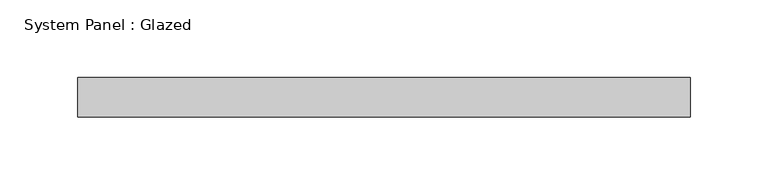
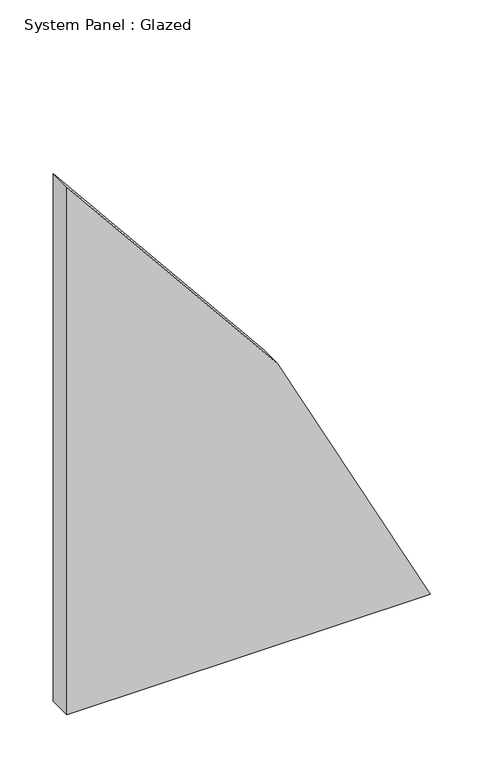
"""IFC4 building model written with IfcOpenShell, lengths in millimetres: plate geometry, System Panel : Glazed."""

import ifcopenshell
import ifcopenshell.guid

model = None  # the IFC model being written
_history = None  # IfcOwnerHistory: only IFC2X3 demands one
_inside = {}  # id of a spatial element -> (the spatial element, [elements in it])
_under = {}  # id of a project, library or spatial element -> (it, [spatial elements below it])
_declared = {}  # id of a project -> (the project, [libraries it declares])
_typed = {}  # id of a type object -> (the type object, [elements of that type])
_made_of = {}  # id of a material, layer set ... -> (it, [elements and type objects made of it])


def new_model(schema):
    """Start an empty IFC model of exactly this schema.

    Asked for "IFC4X3", IfcOpenShell would pick the latest addendum, in which some entities
    have other attributes; the version numbers below select the first issue.
    IFC2X3 requires an IfcOwnerHistory on every rooted entity: one is made here for all.
    """
    global model, _history
    if schema == "IFC4X3":
        model = ifcopenshell.file(schema_version=(4, 3, 0, 0))
    else:
        model = ifcopenshell.file(schema=schema)
    _inside.clear()
    _under.clear()
    _declared.clear()
    _typed.clear()
    _made_of.clear()
    _history = None
    if model.schema == "IFC2X3":
        org = make("IfcOrganization", Name="unknown")
        user = make(
            "IfcPersonAndOrganization",
            ThePerson=make("IfcPerson", FamilyName="unknown"),
            TheOrganization=org,
        )
        app = make(
            "IfcApplication",
            ApplicationDeveloper=org,
            Version="unknown",
            ApplicationFullName="unknown",
            ApplicationIdentifier="unknown",
        )
        _history = make(
            "IfcOwnerHistory",
            OwningUser=user,
            OwningApplication=app,
            ChangeAction="ADDED",
            CreationDate=0,
        )
    return model


def make(cls, **values):
    """One entity of the class cls with the attributes given. An attribute that is None is left unset."""
    return model.create_entity(
        cls, **{name: value for name, value in values.items() if value is not None}
    )


def rooted(cls, **values):
    """An entity with a GlobalId (a new one), such as an element, a storey or a relation."""
    return make(cls, GlobalId=ifcopenshell.guid.new(), OwnerHistory=_history, **values)


def si_unit(unit_type, name, prefix=None):
    """IfcSIUnit, for example si_unit("LENGTHUNIT", "METRE", prefix="MILLI")."""
    return make("IfcSIUnit", UnitType=unit_type, Prefix=prefix, Name=name)


def assignment(units):
    """IfcUnitAssignment: the units of a project."""
    return None if units is None else make("IfcUnitAssignment", Units=units)


def point(xyz):
    """IfcCartesianPoint."""
    return None if xyz is None else make("IfcCartesianPoint", Coordinates=xyz)


def direction(xyz):
    """IfcDirection."""
    return None if xyz is None else make("IfcDirection", DirectionRatios=xyz)


def frame(location, z_axis=None, x_axis=None):
    """IfcAxis2Placement3D, a coordinate frame: its origin and axes. An axis left out is left unset."""
    return make(
        "IfcAxis2Placement3D",
        Location=point(location),
        Axis=direction(z_axis),
        RefDirection=direction(x_axis),
    )


def frame_2d(location, x_axis=None):
    """IfcAxis2Placement2D, a coordinate frame in the plane: its origin and x axis."""
    return make(
        "IfcAxis2Placement2D", Location=point(location), RefDirection=direction(x_axis)
    )


def origin():
    """The frame at (0, 0, 0) with its axes left unset."""
    return frame((0.0, 0.0, 0.0))


def place(relative_to, where):
    """IfcLocalPlacement: puts the frame where relative to a parent placement (None: the world)."""
    return make(
        "IfcLocalPlacement", PlacementRelTo=relative_to, RelativePlacement=where
    )


def context(
    kind, dimensions, precision=None, world=None, true_north=None, identifier=None
):
    """IfcGeometricRepresentationContext, for example the 3D "Model" context."""
    return make(
        "IfcGeometricRepresentationContext",
        ContextIdentifier=identifier,
        ContextType=kind,
        CoordinateSpaceDimension=dimensions,
        Precision=precision,
        WorldCoordinateSystem=world,
        TrueNorth=true_north,
    )


def project(units=None, contexts=None):
    """IfcProject with its units and contexts."""
    return rooted(
        "IfcProject",
        Name="project",
        RepresentationContexts=contexts,
        UnitsInContext=assignment(units),
    )


def spatial(cls, under=None, at=None, **own):
    """A site, building, storey or space (cls), placed at a placement, below another one or the project."""
    s = rooted(cls, ObjectPlacement=at, **own)
    if under is not None:
        _under.setdefault(under.id(), (under, []))[1].append(s)
    return s


def polyline(points):
    """IfcPolyline through the points."""
    return make("IfcPolyline", Points=[point(p) for p in points])


def circle_curve(where, radius):
    """IfcCircle in the frame where."""
    return make("IfcCircle", Position=where, Radius=radius)


def trimmed(basis, trim1, trim2, sense, master):
    """IfcTrimmedCurve: the piece of a basis curve between two trims."""
    return make(
        "IfcTrimmedCurve",
        BasisCurve=basis,
        Trim1=trim1,
        Trim2=trim2,
        SenseAgreement=sense,
        MasterRepresentation=master,
    )


def segment(curve, same_sense, transition):
    """IfcCompositeCurveSegment."""
    return make(
        "IfcCompositeCurveSegment",
        Transition=transition,
        SameSense=same_sense,
        ParentCurve=curve,
    )


def composite_curve(segments, self_intersect=None):
    """IfcCompositeCurve: segments joined end to end."""
    return make("IfcCompositeCurve", Segments=segments, SelfIntersect=self_intersect)


def outline(outer, holes=None, kind="AREA"):
    """IfcArbitraryClosedProfileDef: a profile drawn as a closed curve; with holes, ...WithVoids."""
    if holes is None:
        return make("IfcArbitraryClosedProfileDef", ProfileType=kind, OuterCurve=outer)
    return make(
        "IfcArbitraryProfileDefWithVoids",
        ProfileType=kind,
        OuterCurve=outer,
        InnerCurves=holes,
    )


def extrude(swept, where, along, depth):
    """IfcExtrudedAreaSolid: the profile swept, set in the frame where, extruded along a direction by depth."""
    return make(
        "IfcExtrudedAreaSolid",
        SweptArea=swept,
        Position=where,
        ExtrudedDirection=direction(along),
        Depth=depth,
    )


def shape(context_of_items, identifier, shape_type, items):
    """IfcShapeRepresentation: the items that make up one representation, for example the "Body"."""
    return make(
        "IfcShapeRepresentation",
        ContextOfItems=context_of_items,
        RepresentationIdentifier=identifier,
        RepresentationType=shape_type,
        Items=items,
    )


def source(mapping_origin, context_of_items, identifier, shape_type, items):
    """IfcRepresentationMap: a shape defined once, which mapped items show again and again."""
    return make(
        "IfcRepresentationMap",
        MappingOrigin=mapping_origin,
        MappedRepresentation=shape(context_of_items, identifier, shape_type, items),
    )


def transform(
    local_origin,
    x_axis=None,
    y_axis=None,
    z_axis=None,
    scale=None,
    scale2=None,
    scale3=None,
    uniform=True,
):
    """IfcCartesianTransformationOperator3D, or its non-uniform kind. x_axis, y_axis, z_axis: its Axis1, 2, 3."""
    if uniform:
        return make(
            "IfcCartesianTransformationOperator3D",
            Axis1=direction(x_axis),
            Axis2=direction(y_axis),
            LocalOrigin=point(local_origin),
            Scale=scale,
            Axis3=direction(z_axis),
        )
    return make(
        "IfcCartesianTransformationOperator3DnonUniform",
        Axis1=direction(x_axis),
        Axis2=direction(y_axis),
        LocalOrigin=point(local_origin),
        Scale=scale,
        Axis3=direction(z_axis),
        Scale2=scale2,
        Scale3=scale3,
    )


def mapped(mapping_source, mapping_target):
    """IfcMappedItem: shows the shape of a source again, moved by a transform."""
    return make(
        "IfcMappedItem", MappingSource=mapping_source, MappingTarget=mapping_target
    )


def made_of(thing, what):
    """Note that an element or type object is made of a material, layer set ...; save() writes the relation."""
    if what is not None:
        _made_of.setdefault(what.id(), (what, []))[1].append(thing)
    return thing


def element(
    cls,
    number,
    at=None,
    inside=None,
    cuts=None,
    type_object=None,
    material=None,
    context=None,
    identifier="Body",
    shape_type=None,
    held_by="IfcProductDefinitionShape",
    body=None,
    shapes=None,
    **own,
):
    """One element of the class cls, such as IfcWall. Its Tag is "e" and its number.

    at: its placement. inside: the storey or other place that contains it. cuts: it is an
    opening in that element (IfcRelVoidsElement). A single representation is given by context,
    identifier, shape_type and body (its items); several are given by shapes. held_by: the class
    of the entity that holds the representations. save() writes the other relations.
    """
    e = rooted(cls, Tag="e%d" % number, ObjectPlacement=at, **own)
    if body is not None:
        shapes = [shape(context, identifier, shape_type, body)]
    if shapes is not None:
        e.Representation = make(held_by, Representations=shapes)
    if inside is not None:
        _inside.setdefault(inside.id(), (inside, []))[1].append(e)
    if cuts is not None:
        rooted(
            "IfcRelVoidsElement", RelatingBuildingElement=cuts, RelatedOpeningElement=e
        )
    if type_object is not None:
        _typed.setdefault(type_object.id(), (type_object, []))[1].append(e)
    return made_of(e, material)


def aggregate(whole, parts):
    """IfcRelAggregates: a whole, such as a stair, and the parts it consists of."""
    return rooted("IfcRelAggregates", RelatingObject=whole, RelatedObjects=parts)


def save(model, path):
    """Write the relations noted so far, then the file.

    IfcRelAggregates (storeys below a building ...), IfcRelContainedInSpatialStructure (elements
    in a storey), IfcRelDefinesByType, IfcRelAssociatesMaterial and IfcRelDeclares: one each for
    every whole, place, type object, material and project.
    """
    for whole, parts in _under.values():
        aggregate(whole, parts)
    for where, things in _inside.values():
        rooted(
            "IfcRelContainedInSpatialStructure",
            RelatedElements=things,
            RelatingStructure=where,
        )
    for kind, things in _typed.values():
        rooted("IfcRelDefinesByType", RelatedObjects=things, RelatingType=kind)
    for what, things in _made_of.values():
        rooted("IfcRelAssociatesMaterial", RelatedObjects=things, RelatingMaterial=what)
    for by, libraries in _declared.values():
        rooted("IfcRelDeclares", RelatingContext=by, RelatedDefinitions=libraries)
    model.write(path)


def system_panel_glazed_0195c96e(model_context):
    return source(origin(), model_context, "Body", "SweptSolid", [
        extrude(outline(composite_curve([segment(polyline([(0.0, -196.8622586), (0.0, 196.8622586)]), True, "CONTINUOUS"), segment(trimmed(circle_curve(frame_2d((-641.35, -1447.8122586)), 1765.3), [point((0.0, 196.8622586))], [point((604.2053731, -196.8622586))], False, "CARTESIAN"), True, "CONTINUOUS"), segment(polyline([(604.2053731, -196.8622586), (0.0, -196.8622586)]), True, "CONTINUOUS")], self_intersect=False)), frame((0.0, -44.45, 0.0), z_axis=(0.0, 1.0, 0.0), x_axis=(0.0, 0.0, 1.0)), (0.0, 0.0, 1.0), 25.4),
    ])


if __name__ == "__main__":
    model = new_model("IFC4")
    model_context = context("Model", 3, world=origin())
    ifc_project = project(units=[si_unit("LENGTHUNIT", "METRE", prefix="MILLI")], contexts=[model_context])
    site = spatial("IfcSite", under=ifc_project)
    building = spatial("IfcBuilding", under=site)
    placement = place(None, origin())
    system_panel_glazed_shape = system_panel_glazed_0195c96e(model_context)
    element("IfcPlate", 1, ObjectType="System Panel : Glazed", at=placement, inside=building, context=model_context, shape_type="MappedRepresentation", body=[
        mapped(system_panel_glazed_shape, transform((0.0, 0.0, 0.0), x_axis=(1.0, 0.0, 0.0), y_axis=(0.0, 1.0, 0.0), z_axis=(0.0, 0.0, 1.0))),
    ])
    save(model, "model.ifc")
